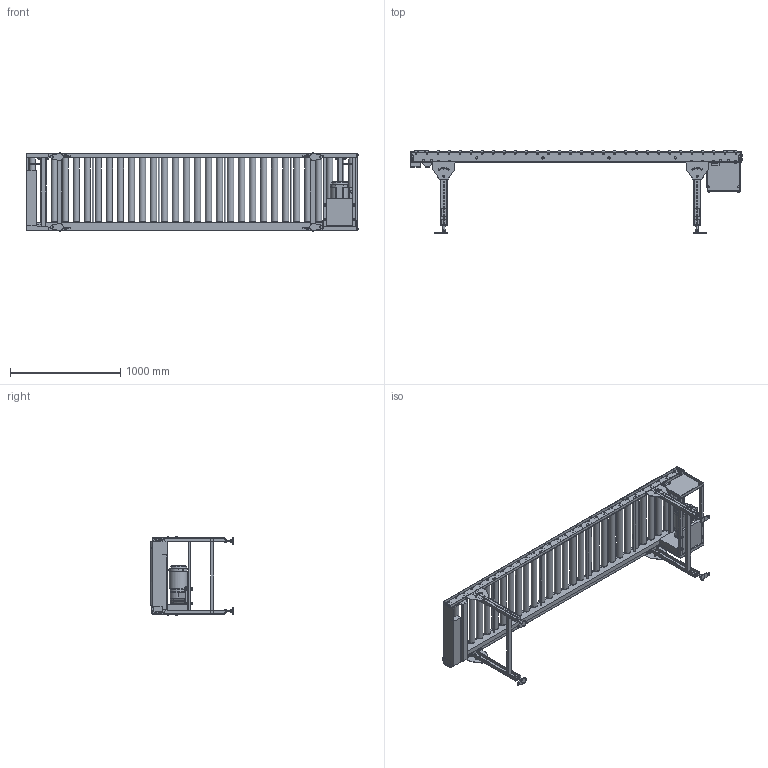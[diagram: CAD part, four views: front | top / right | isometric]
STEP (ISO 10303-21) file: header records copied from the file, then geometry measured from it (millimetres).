
FILE_DESCRIPTION( (''), '2;1');
FILE_NAME ('WEB-MCC1S・MCC2S-57-630-100-300-R.stp','2026-06-19T10:44:03',(''),(''),'spGate 21.9.5 (****-****-****-****)','','');
FILE_SCHEMA (('AUTOMOTIVE_DESIGN'));
Length unit declared in the file: millimetre
Products named in the file (34): WEB-MCC1S_MCC2S-57-630-100-300-R; TEMP_X_T-prt0; TEMP_X_T-prt1; TEMP_X_T-prt2; TEMP_X_T-prt3; TEMP_X_T-prt4; TEMP_X_T-prt5; TEMP_X_T-prt6; TEMP_X_T-prt7; TEMP_X_T-prt8; TEMP_X_T-prt9; TEMP_X_T-prt10; TEMP_X_T-prt11; TEMP_X_T-prt12; TEMP_X_T-prt13; TEMP_X_T-prt14; TEMP_X_T-prt15; TEMP_X_T-prt16; TEMP_X_T-prt17; TEMP_X_T-prt18; TEMP_X_T-prt19; TEMP_X_T-prt20; TEMP_X_T-prt21; TEMP_X_T-prt22; TEMP_X_T-prt23; TEMP_X_T-prt24; TEMP_X_T-prt25; TEMP_X_T-prt26; TEMP_X_T-prt27; TEMP_X_T-prt28; TEMP_X_T-prt29; TEMP_X_T-prt30; TEMP_X_T-prt31; TEMP_X_T-prt32
Assembly tree (33 placements, depth 2):
  WEB-MCC1S_MCC2S-57-630-100-300-R
    TEMP_X_T-prt0
    TEMP_X_T-prt1
    TEMP_X_T-prt2
    TEMP_X_T-prt3
    TEMP_X_T-prt4
    TEMP_X_T-prt5
    TEMP_X_T-prt6
    TEMP_X_T-prt7
    TEMP_X_T-prt8
    TEMP_X_T-prt9
    TEMP_X_T-prt10
    TEMP_X_T-prt11
    TEMP_X_T-prt12
    TEMP_X_T-prt13
    TEMP_X_T-prt14
    TEMP_X_T-prt15
    TEMP_X_T-prt16
    TEMP_X_T-prt17
    TEMP_X_T-prt18
    TEMP_X_T-prt19
    TEMP_X_T-prt20
    TEMP_X_T-prt21
    TEMP_X_T-prt22
    TEMP_X_T-prt23
    TEMP_X_T-prt24
    TEMP_X_T-prt25
    TEMP_X_T-prt26
    TEMP_X_T-prt27
    TEMP_X_T-prt28
    TEMP_X_T-prt29
    TEMP_X_T-prt30
    TEMP_X_T-prt31
    TEMP_X_T-prt32
Bounding box: 3013.4 x 750 x 710.6 mm (x, y, z)
Volume: 78500372.2 mm3; surface area: 8203312.7 mm2
Topology: 33 solids, 33 shells, 3174 faces, 8108 edges, 5345 vertices
Faces by surface type: plane 2339, cylinder 763, bspline 60, sphere 12
Full cylindrical faces by diameter (mm): 5 x22, 5.1 x11, 8 x8, 9.2 x11, 10 x22, 11.8 x11, 12 x30, 13.8 x4, 16 x30, 17 x8, 21 x12, 24 x2, 47 x30, 57 x34
Entity records: 165125 total; most frequent: CARTESIAN_POINT 19545, DIRECTION 16519, ORIENTED_EDGE 16194, COLOUR_RGB 11304, PRESENTATION_STYLE_ASSIGNMENT 11304, STYLED_ITEM 11304, EDGE_CURVE 8097, DRAUGHTING_PRE_DEFINED_CURVE_FONT 8097
